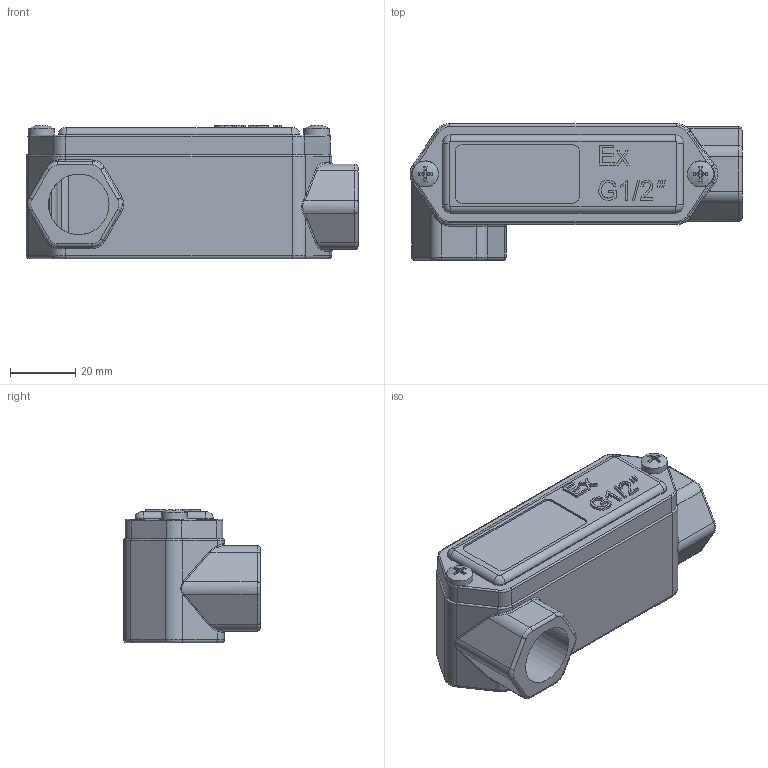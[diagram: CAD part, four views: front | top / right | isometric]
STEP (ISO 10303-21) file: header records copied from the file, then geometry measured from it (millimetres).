
FILE_DESCRIPTION (( 'STEP AP203' ), '1' );
FILE_NAME ('捗藍-蚎1_3D.STEP', '2024-03-06T07:07:51', ( '' ), ( '' ), 'SwSTEP 2.0', 'SolidWorks 2018', '' );
FILE_SCHEMA (( 'CONFIG_CONTROL_DESIGN' ));
Length unit declared in the file: millimetre
Products named in the file (1): 捗藍-蚎1_3D
Bounding box: 101.98 x 42 x 41.07 mm (x, y, z)
Volume: 46746.2 mm3; surface area: 31190.6 mm2
Topology: 1 solids, 5 shells, 381 faces, 932 edges, 573 vertices
Faces by surface type: plane 173, cylinder 113, torus 50, bspline 39, cone 4, sphere 2
Full cylindrical faces by diameter (mm): 3.2 x2, 3.394 x2, 4 x2, 4.5 x2, 8 x2, 18.6 x2
Entity records: 13575 total; most frequent: CARTESIAN_POINT 4763, ORIENTED_EDGE 1816, DIRECTION 1795, EDGE_CURVE 908, AXIS2_PLACEMENT_3D 643, VERTEX_POINT 567, LINE 509, VECTOR 509
